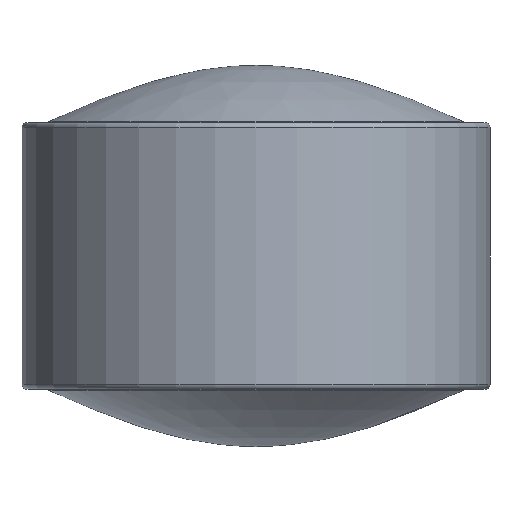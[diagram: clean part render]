
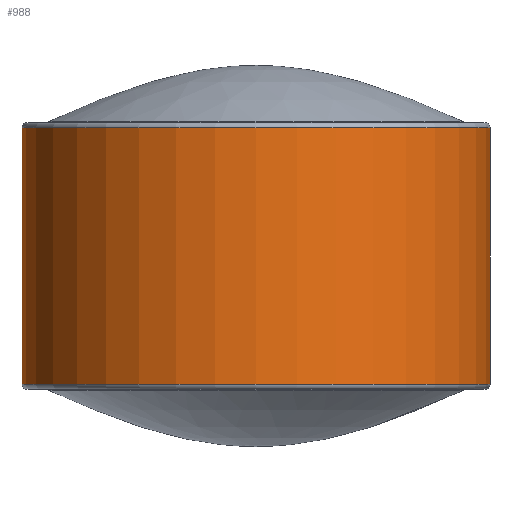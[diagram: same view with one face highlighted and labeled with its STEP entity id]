
A CAD part, front view. The second image highlights one B-rep face of the part: STEP entity #988.
In plain terms, the highlighted cylindrical face has radius 2.35 mm (diameter 4.7 mm), a partial arc.
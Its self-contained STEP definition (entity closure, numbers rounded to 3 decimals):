
#288=CARTESIAN_POINT('',(0.,0.,0.623));
#289=DIRECTION('',(0.,0.,-1.));
#290=DIRECTION('',(1.,0.,0.));
#291=AXIS2_PLACEMENT_3D('',#288,#289,#290);
#293=DIRECTION('',(0.,0.,-1.));
#294=VECTOR('',#293,2.58);
#295=CARTESIAN_POINT('',(-2.35,0.,3.204));
#296=LINE('',#295,#294);
#297=CARTESIAN_POINT('',(0.,0.,3.204));
#298=DIRECTION('',(0.,0.,-1.));
#299=DIRECTION('',(1.,0.,0.));
#300=AXIS2_PLACEMENT_3D('',#297,#298,#299);
#302=DIRECTION('',(0.,0.,-1.));
#303=VECTOR('',#302,2.58);
#304=CARTESIAN_POINT('',(2.35,0.,3.204));
#305=LINE('',#304,#303);
#626=CARTESIAN_POINT('',(2.35,0.,0.623));
#627=CARTESIAN_POINT('',(-2.35,0.,0.623));
#628=VERTEX_POINT('',#626);
#629=VERTEX_POINT('',#627);
#630=CARTESIAN_POINT('',(2.35,0.,3.204));
#631=CARTESIAN_POINT('',(-2.35,0.,3.204));
#632=VERTEX_POINT('',#630);
#633=VERTEX_POINT('',#631);
#974=CARTESIAN_POINT('',(0.,0.,-0.191));
#975=DIRECTION('',(0.,0.,1.));
#976=DIRECTION('',(-1.,0.,0.));
#977=AXIS2_PLACEMENT_3D('',#974,#975,#976);
#978=CYLINDRICAL_SURFACE('',#977,2.35);
#980=ORIENTED_EDGE('',*,*,#979,.T.);
#982=ORIENTED_EDGE('',*,*,#981,.F.);
#983=ORIENTED_EDGE('',*,*,#964,.F.);
#985=ORIENTED_EDGE('',*,*,#984,.T.);
#986=EDGE_LOOP('',(#980,#982,#983,#985));
#987=FACE_OUTER_BOUND('',#986,.F.);
#988=ADVANCED_FACE('',(#987),#978,.T.);
#292=CIRCLE('',#291,2.35);
#301=CIRCLE('',#300,2.35);
#964=EDGE_CURVE('',#632,#633,#301,.T.);
#979=EDGE_CURVE('',#628,#629,#292,.T.);
#981=EDGE_CURVE('',#633,#629,#296,.T.);
#984=EDGE_CURVE('',#632,#628,#305,.T.);
